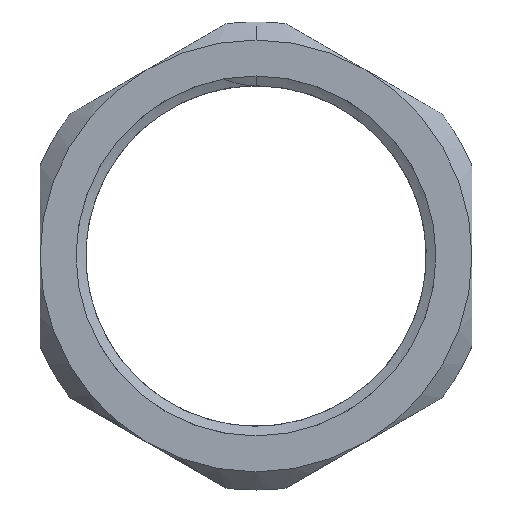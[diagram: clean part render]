
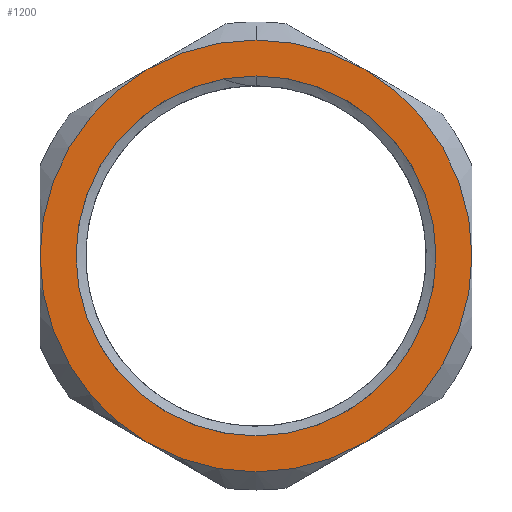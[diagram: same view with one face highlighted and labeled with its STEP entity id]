
A CAD part, top view. The second image highlights one B-rep face of the part: STEP entity #1200.
In plain terms, the highlighted planar face has unit normal (0, 0, 1).
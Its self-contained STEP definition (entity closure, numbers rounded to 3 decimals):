
#610=CARTESIAN_POINT('',(0.,0.,2.));
#620=DIRECTION('',(0.,0.,1.));
#630=DIRECTION('',(1.,0.,0.));
#640=AXIS2_PLACEMENT_3D('',#610,#620,#630);
#650=PLANE('',#640);
#660=CARTESIAN_POINT('',(6237.776,2512.454,
2.));
#670=DIRECTION('',(0.,0.,-1.));
#680=DIRECTION('',(-1.,0.,0.));
#690=AXIS2_PLACEMENT_3D('',#660,#670,#680);
#700=CIRCLE('',#690,6.);
#710=CARTESIAN_POINT('',(6232.58,2509.454,
2.));
#720=VERTEX_POINT('',#710);
#730=CARTESIAN_POINT('',(6231.776,2512.454,
2.));
#740=VERTEX_POINT('',#730);
#750=EDGE_CURVE('',#720,#740,#700,.T.);
#760=ORIENTED_EDGE('',*,*,#750,.F.);
#770=CARTESIAN_POINT('',(6232.58,2515.454,
2.));
#780=VERTEX_POINT('',#770);
#790=EDGE_CURVE('',#740,#780,#700,.T.);
#800=ORIENTED_EDGE('',*,*,#790,.F.);
#810=CARTESIAN_POINT('',(6237.776,2518.454,
2.));
#820=VERTEX_POINT('',#810);
#830=EDGE_CURVE('',#780,#820,#700,.T.);
#840=ORIENTED_EDGE('',*,*,#830,.F.);
#850=CARTESIAN_POINT('',(6242.972,2515.454,
2.));
#860=VERTEX_POINT('',#850);
#870=EDGE_CURVE('',#820,#860,#700,.T.);
#880=ORIENTED_EDGE('',*,*,#870,.F.);
#890=CARTESIAN_POINT('',(6243.776,2512.454,
2.));
#900=VERTEX_POINT('',#890);
#910=EDGE_CURVE('',#860,#900,#700,.T.);
#920=ORIENTED_EDGE('',*,*,#910,.F.);
#930=CARTESIAN_POINT('',(6242.972,2509.454,
2.));
#940=VERTEX_POINT('',#930);
#950=EDGE_CURVE('',#900,#940,#700,.T.);
#960=ORIENTED_EDGE('',*,*,#950,.F.);
#970=CARTESIAN_POINT('',(6237.776,2506.454,
2.));
#980=VERTEX_POINT('',#970);
#990=EDGE_CURVE('',#940,#980,#700,.T.);
#1000=ORIENTED_EDGE('',*,*,#990,.F.);
#1010=EDGE_CURVE('',#980,#720,#700,.T.);
#1020=ORIENTED_EDGE('',*,*,#1010,.F.);
#1030=EDGE_LOOP('',(#1020,#1000,#960,#920,#880,#840,#800,#760));
#1040=FACE_OUTER_BOUND('',#1030,.T.);
#1050=CARTESIAN_POINT('',(6237.776,2512.454,2.));
#1060=DIRECTION('',(0.,0.,1.));
#1070=DIRECTION('',(1.,0.,0.));
#1080=AXIS2_PLACEMENT_3D('',#1050,#1060,#1070);
#1090=CIRCLE('',#1080,5.);
#1100=CARTESIAN_POINT('',(6242.776,2512.454,2.));
#1110=VERTEX_POINT('',#1100);
#1120=CARTESIAN_POINT('',(6232.776,2512.454,2.));
#1130=VERTEX_POINT('',#1120);
#1140=EDGE_CURVE('',#1110,#1130,#1090,.T.);
#1150=ORIENTED_EDGE('',*,*,#1140,.F.);
#1160=EDGE_CURVE('',#1130,#1110,#1090,.T.);
#1170=ORIENTED_EDGE('',*,*,#1160,.F.);
#1180=EDGE_LOOP('',(#1170,#1150));
#1190=FACE_BOUND('',#1180,.T.);
#1200=ADVANCED_FACE('',(#1040,#1190),#650,.T.);
